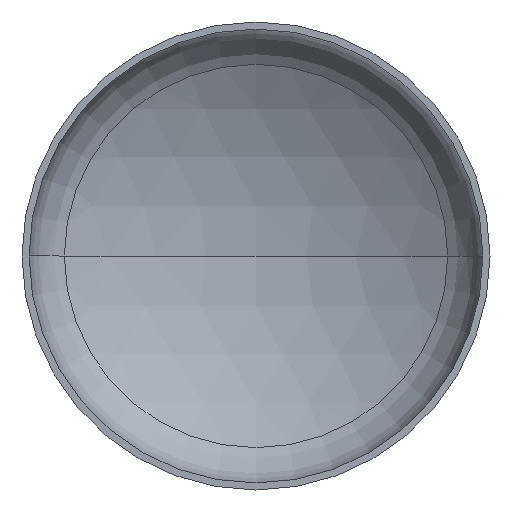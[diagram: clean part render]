
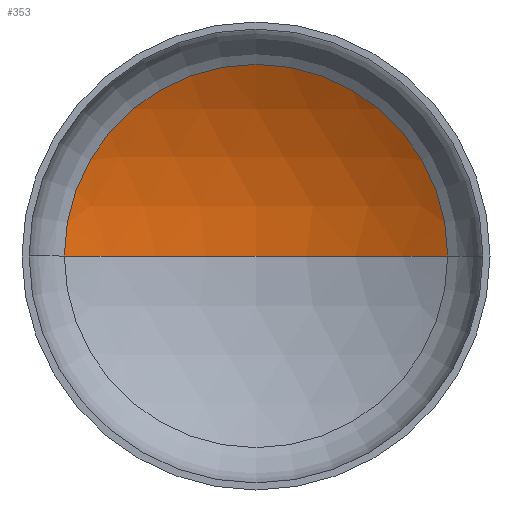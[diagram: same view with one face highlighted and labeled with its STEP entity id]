
A CAD part, front view. The second image highlights one B-rep face of the part: STEP entity #353.
In plain terms, the highlighted spherical face has radius 3600 mm.
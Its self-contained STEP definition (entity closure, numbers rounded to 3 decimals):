
#8 = AXIS2_PLACEMENT_3D ( 'NONE', #405, #294, #140 ) ;
#12 = AXIS2_PLACEMENT_3D ( 'NONE', #278, #79, #319 ) ;
#15 = AXIS2_PLACEMENT_3D ( 'NONE', #279, #82, #263 ) ;
#16 = AXIS2_PLACEMENT_3D ( 'NONE', #340, #300, #151 ) ;
#31 = VERTEX_POINT ( 'NONE', #109 ) ;
#43 = VERTEX_POINT ( 'NONE', #105 ) ;
#78 = VERTEX_POINT ( 'NONE', #195 ) ;
#79 = DIRECTION ( 'NONE',  ( 0., 0., 1. ) ) ;
#82 = DIRECTION ( 'NONE',  ( 0., 0., -1. ) ) ;
#86 = EDGE_LOOP ( 'NONE', ( #142, #145, #104 ) ) ;
#104 = ORIENTED_EDGE ( 'NONE', *, *, #346, .T. ) ;
#105 = CARTESIAN_POINT ( 'NONE',  ( 0., 1224.433, 0. ) ) ;
#109 = CARTESIAN_POINT ( 'NONE',  ( -1842.754, 717.046, 0. ) ) ;
#140 = DIRECTION ( 'NONE',  ( -1., 0., 0. ) ) ;
#142 = ORIENTED_EDGE ( 'NONE', *, *, #352, .F. ) ;
#145 = ORIENTED_EDGE ( 'NONE', *, *, #350, .T. ) ;
#151 = DIRECTION ( 'NONE',  ( 1., 0., 0. ) ) ;
#195 = CARTESIAN_POINT ( 'NONE',  ( 1842.754, 717.046, 0. ) ) ;
#200 = FACE_OUTER_BOUND ( 'NONE', #86, .T. ) ;
#262 = SPHERICAL_SURFACE ( 'NONE', #8, 3600. ) ;
#263 = DIRECTION ( 'NONE',  ( -1., 0., 0. ) ) ;
#268 = CIRCLE ( 'NONE', #16, 1842.754 ) ;
#278 = CARTESIAN_POINT ( 'NONE',  ( 0., -2375.567, 0. ) ) ;
#279 = CARTESIAN_POINT ( 'NONE',  ( 0., -2375.567, 0. ) ) ;
#294 = DIRECTION ( 'NONE',  ( 0., 0., -1. ) ) ;
#300 = DIRECTION ( 'NONE',  ( 0., -1., 0. ) ) ;
#319 = DIRECTION ( 'NONE',  ( 1., 0., 0. ) ) ;
#334 = CIRCLE ( 'NONE', #15, 3600. ) ;
#340 = CARTESIAN_POINT ( 'NONE',  ( 0., 717.046, 0. ) ) ;
#346 = EDGE_CURVE ( 'NONE', #78, #31, #268, .T. ) ;
#350 = EDGE_CURVE ( 'NONE', #43, #78, #334, .T. ) ;
#352 = EDGE_CURVE ( 'NONE', #43, #31, #378, .T. ) ;
#353 = ADVANCED_FACE ( 'NONE', ( #200 ), #262, .F. ) ;
#378 = CIRCLE ( 'NONE', #12, 3600. ) ;
#405 = CARTESIAN_POINT ( 'NONE',  ( 0., -2375.567, 0. ) ) ;
